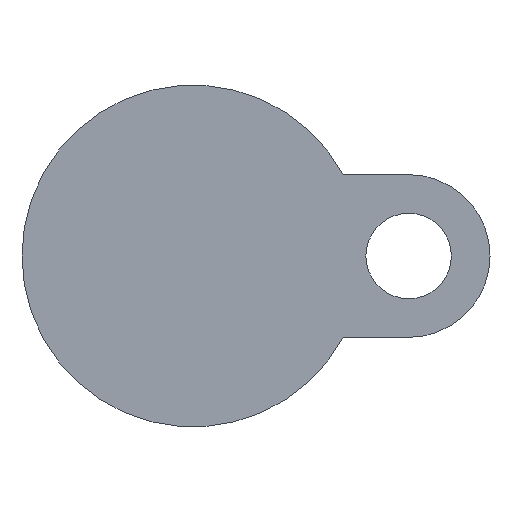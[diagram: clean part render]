
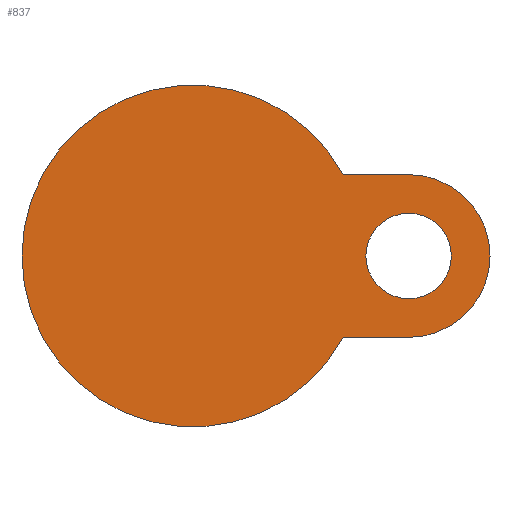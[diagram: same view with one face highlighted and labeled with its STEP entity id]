
A CAD part, front view. The second image highlights one B-rep face of the part: STEP entity #837.
In plain terms, the highlighted planar face has unit normal (0, -1, 0).
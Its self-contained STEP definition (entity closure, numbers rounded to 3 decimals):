
#54 = AXIS2_PLACEMENT_3D ( 'NONE', #2241, #4357, #2709 ) ;
#69 = CARTESIAN_POINT ( 'NONE',  ( 18.466, -12., -10. ) ) ;
#161 = EDGE_CURVE ( 'NONE', #4029, #668, #4708, .T. ) ;
#181 = EDGE_LOOP ( 'NONE', ( #5396, #1344, #1084, #1672, #4627, #1245 ) ) ;
#226 = CARTESIAN_POINT ( 'NONE',  ( 0., -12., 0. ) ) ;
#270 = EDGE_CURVE ( 'NONE', #2635, #5116, #1686, .T. ) ;
#379 = VERTEX_POINT ( 'NONE', #69 ) ;
#417 = DIRECTION ( 'NONE',  ( 0., -1., 0. ) ) ;
#451 = AXIS2_PLACEMENT_3D ( 'NONE', #3743, #2852, #3768 ) ;
#529 = AXIS2_PLACEMENT_3D ( 'NONE', #551, #1379, #1045 ) ;
#551 = CARTESIAN_POINT ( 'NONE',  ( 26.5, -12., 0. ) ) ;
#555 = CARTESIAN_POINT ( 'NONE',  ( -21., -12., 0. ) ) ;
#621 = DIRECTION ( 'NONE',  ( 1., 0., 0. ) ) ;
#645 = DIRECTION ( 'NONE',  ( -1., 0., 0. ) ) ;
#668 = VERTEX_POINT ( 'NONE', #3243 ) ;
#712 = AXIS2_PLACEMENT_3D ( 'NONE', #2006, #3696, #1584 ) ;
#772 = CARTESIAN_POINT ( 'NONE',  ( 0., -12., 0. ) ) ;
#829 = FACE_BOUND ( 'NONE', #1863, .T. ) ;
#837 = ADVANCED_FACE ( 'NONE', ( #1263, #829 ), #2001, .T. ) ;
#1045 = DIRECTION ( 'NONE',  ( 1., 0., 0. ) ) ;
#1069 = DIRECTION ( 'NONE',  ( -1., 0., 0. ) ) ;
#1084 = ORIENTED_EDGE ( 'NONE', *, *, #1169, .T. ) ;
#1140 = AXIS2_PLACEMENT_3D ( 'NONE', #4225, #417, #3720 ) ;
#1169 = EDGE_CURVE ( 'NONE', #4804, #2635, #2306, .T. ) ;
#1245 = ORIENTED_EDGE ( 'NONE', *, *, #5061, .F. ) ;
#1263 = FACE_OUTER_BOUND ( 'NONE', #181, .T. ) ;
#1344 = ORIENTED_EDGE ( 'NONE', *, *, #3736, .T. ) ;
#1379 = DIRECTION ( 'NONE',  ( 0., -1., 0. ) ) ;
#1473 = CARTESIAN_POINT ( 'NONE',  ( 26.5, -12., 10. ) ) ;
#1557 = CIRCLE ( 'NONE', #4136, 21. ) ;
#1584 = DIRECTION ( 'NONE',  ( 1., 0., 0. ) ) ;
#1594 = CARTESIAN_POINT ( 'NONE',  ( 21.25, -12., 0. ) ) ;
#1672 = ORIENTED_EDGE ( 'NONE', *, *, #270, .T. ) ;
#1686 = CIRCLE ( 'NONE', #451, 10. ) ;
#1712 = VERTEX_POINT ( 'NONE', #2005 ) ;
#1789 = CARTESIAN_POINT ( 'NONE',  ( 36.5, -12., 0. ) ) ;
#1863 = EDGE_LOOP ( 'NONE', ( #3176, #3941 ) ) ;
#1976 = LINE ( 'NONE', #2332, #2190 ) ;
#2001 = PLANE ( 'NONE',  #1140 ) ;
#2005 = CARTESIAN_POINT ( 'NONE',  ( 18.466, -12., 10. ) ) ;
#2006 = CARTESIAN_POINT ( 'NONE',  ( 26.5, -12., 0. ) ) ;
#2041 = EDGE_CURVE ( 'NONE', #379, #2606, #4743, .T. ) ;
#2190 = VECTOR ( 'NONE', #4474, 1000. ) ;
#2193 = VECTOR ( 'NONE', #621, 1000. ) ;
#2241 = CARTESIAN_POINT ( 'NONE',  ( 26.5, -12., 0. ) ) ;
#2306 = CIRCLE ( 'NONE', #529, 10. ) ;
#2312 = DIRECTION ( 'NONE',  ( 0., 1., 0. ) ) ;
#2332 = CARTESIAN_POINT ( 'NONE',  ( 11.379, -12., 10. ) ) ;
#2338 = EDGE_CURVE ( 'NONE', #668, #4029, #5299, .T. ) ;
#2606 = VERTEX_POINT ( 'NONE', #555 ) ;
#2635 = VERTEX_POINT ( 'NONE', #1789 ) ;
#2709 = DIRECTION ( 'NONE',  ( 1., 0., 0. ) ) ;
#2729 = LINE ( 'NONE', #4433, #2193 ) ;
#2808 = EDGE_CURVE ( 'NONE', #5116, #1712, #1976, .T. ) ;
#2852 = DIRECTION ( 'NONE',  ( 0., -1., 0. ) ) ;
#3141 = AXIS2_PLACEMENT_3D ( 'NONE', #772, #3683, #1069 ) ;
#3176 = ORIENTED_EDGE ( 'NONE', *, *, #2338, .F. ) ;
#3201 = CARTESIAN_POINT ( 'NONE',  ( 26.5, -12., -10. ) ) ;
#3243 = CARTESIAN_POINT ( 'NONE',  ( 31.75, -12., 0. ) ) ;
#3683 = DIRECTION ( 'NONE',  ( 0., 1., 0. ) ) ;
#3696 = DIRECTION ( 'NONE',  ( 0., -1., 0. ) ) ;
#3720 = DIRECTION ( 'NONE',  ( 1., 0., 0. ) ) ;
#3736 = EDGE_CURVE ( 'NONE', #379, #4804, #2729, .T. ) ;
#3743 = CARTESIAN_POINT ( 'NONE',  ( 26.5, -12., 0. ) ) ;
#3768 = DIRECTION ( 'NONE',  ( 1., 0., 0. ) ) ;
#3941 = ORIENTED_EDGE ( 'NONE', *, *, #161, .F. ) ;
#4029 = VERTEX_POINT ( 'NONE', #1594 ) ;
#4136 = AXIS2_PLACEMENT_3D ( 'NONE', #226, #2312, #645 ) ;
#4225 = CARTESIAN_POINT ( 'NONE',  ( 0., -12., 0. ) ) ;
#4357 = DIRECTION ( 'NONE',  ( 0., -1., 0. ) ) ;
#4433 = CARTESIAN_POINT ( 'NONE',  ( 26.5, -12., -10. ) ) ;
#4474 = DIRECTION ( 'NONE',  ( -1., 0., 0. ) ) ;
#4627 = ORIENTED_EDGE ( 'NONE', *, *, #2808, .T. ) ;
#4708 = CIRCLE ( 'NONE', #712, 5.25 ) ;
#4743 = CIRCLE ( 'NONE', #3141, 21. ) ;
#4804 = VERTEX_POINT ( 'NONE', #3201 ) ;
#5061 = EDGE_CURVE ( 'NONE', #2606, #1712, #1557, .T. ) ;
#5116 = VERTEX_POINT ( 'NONE', #1473 ) ;
#5299 = CIRCLE ( 'NONE', #54, 5.25 ) ;
#5396 = ORIENTED_EDGE ( 'NONE', *, *, #2041, .F. ) ;
